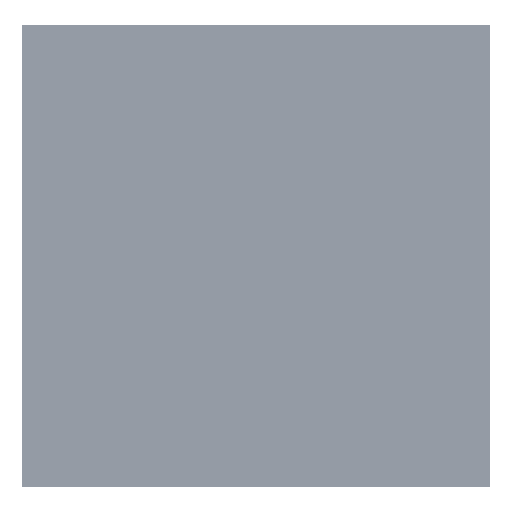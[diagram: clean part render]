
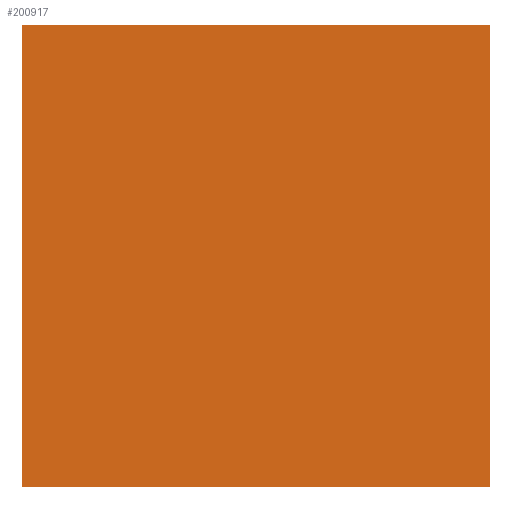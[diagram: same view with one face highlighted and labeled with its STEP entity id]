
A CAD part, front view. The second image highlights one B-rep face of the part: STEP entity #200917.
In plain terms, the highlighted planar face has unit normal (0, -1, 0).
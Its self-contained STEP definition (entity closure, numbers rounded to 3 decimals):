
#4395 = CARTESIAN_POINT ( 'NONE',  ( 7361.509, -1005., -7252.059 ) ) ;
#5259 = DIRECTION ( 'NONE',  ( 1., 0., 0. ) ) ;
#17755 = CARTESIAN_POINT ( 'NONE',  ( -159.367, -1005., 167.46 ) ) ;
#55994 = DIRECTION ( 'NONE',  ( 0., 1., 0. ) ) ;
#65004 = EDGE_CURVE ( 'NONE', #377254, #175977, #365544, .T. ) ;
#74151 = ORIENTED_EDGE ( 'NONE', *, *, #342082, .F. ) ;
#79912 = EDGE_CURVE ( 'NONE', #306212, #377254, #112526, .T. ) ;
#80712 = PLANE ( 'NONE',  #302470 ) ;
#85789 = DIRECTION ( 'NONE',  ( 0., 0., 1. ) ) ;
#94893 = CARTESIAN_POINT ( 'NONE',  ( -159.367, -1005., 167.46 ) ) ;
#111683 = VECTOR ( 'NONE', #157144, 1000. ) ;
#112526 = LINE ( 'NONE', #94893, #196188 ) ;
#125735 = EDGE_CURVE ( 'NONE', #167398, #306212, #288310, .T. ) ;
#128090 = VECTOR ( 'NONE', #150915, 1000. ) ;
#144534 = CARTESIAN_POINT ( 'NONE',  ( 0., -1005., 0. ) ) ;
#150915 = DIRECTION ( 'NONE',  ( -1., 0., 0. ) ) ;
#156505 = CARTESIAN_POINT ( 'NONE',  ( 7361.509, -1005., 167.46 ) ) ;
#156808 = ORIENTED_EDGE ( 'NONE', *, *, #125735, .F. ) ;
#157144 = DIRECTION ( 'NONE',  ( 0., 0., 1. ) ) ;
#161014 = CARTESIAN_POINT ( 'NONE',  ( -159.367, -1005., -7252.059 ) ) ;
#167398 = VERTEX_POINT ( 'NONE', #249307 ) ;
#170670 = EDGE_LOOP ( 'NONE', ( #156808, #74151, #261164, #358177 ) ) ;
#175977 = VERTEX_POINT ( 'NONE', #4395 ) ;
#196188 = VECTOR ( 'NONE', #5259, 1000. ) ;
#200917 = ADVANCED_FACE ( 'NONE', ( #234747 ), #80712, .F. ) ;
#203708 = CARTESIAN_POINT ( 'NONE',  ( 7361.509, -1005., -7252.059 ) ) ;
#234747 = FACE_OUTER_BOUND ( 'NONE', #170670, .T. ) ;
#249307 = CARTESIAN_POINT ( 'NONE',  ( -159.367, -1005., -7252.059 ) ) ;
#261164 = ORIENTED_EDGE ( 'NONE', *, *, #65004, .F. ) ;
#262111 = DIRECTION ( 'NONE',  ( 0., 0., -1. ) ) ;
#288310 = LINE ( 'NONE', #161014, #111683 ) ;
#297526 = CARTESIAN_POINT ( 'NONE',  ( -159.367, -1005., -7252.059 ) ) ;
#302470 = AXIS2_PLACEMENT_3D ( 'NONE', #144534, #55994, #85789 ) ;
#306212 = VERTEX_POINT ( 'NONE', #17755 ) ;
#328447 = VECTOR ( 'NONE', #262111, 1000. ) ;
#342082 = EDGE_CURVE ( 'NONE', #175977, #167398, #374266, .T. ) ;
#358177 = ORIENTED_EDGE ( 'NONE', *, *, #79912, .F. ) ;
#365544 = LINE ( 'NONE', #203708, #328447 ) ;
#374266 = LINE ( 'NONE', #297526, #128090 ) ;
#377254 = VERTEX_POINT ( 'NONE', #156505 ) ;
